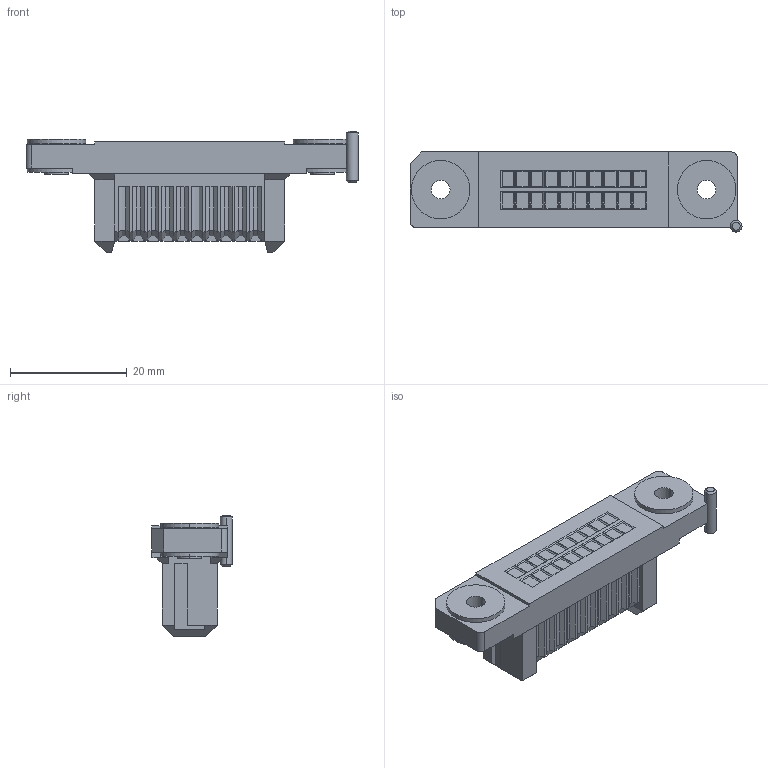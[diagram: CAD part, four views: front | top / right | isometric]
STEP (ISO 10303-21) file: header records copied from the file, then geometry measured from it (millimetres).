
FILE_DESCRIPTION(('CoCreate Modeling STEP Export'),'2;1');
FILE_NAME('P3A947_FA01-020.stp','2017-07-27T14:29:36',(''),(''),'CoCreate Modeling STEP processor for AP214 (Solid Model)','CoCreate Modeling 17.0B 09-Oct-2010 (C) Parametric Technology GmbH','');
FILE_SCHEMA(('AUTOMOTIVE_DESIGN { 1 0 10303 214 1 1 1 1 }'));
Length unit declared in the file: millimetre
Products named in the file (2): FA01-020
Assembly tree (1 placements, depth 2):
  FA01-020
    FA01-020
Bounding box: 56.8 x 13.7 x 20.8 mm (x, y, z)
Volume: 6566 mm3; surface area: 4078.3 mm2
Topology: 1 solids, 1 shells, 451 faces, 1074 edges, 655 vertices
Faces by surface type: plane 419, cylinder 28, cone 4
Entity records: 12442 total; most frequent: ORIENTED_EDGE 2148, CARTESIAN_POINT 2145, DIRECTION 1976, EDGE_CURVE 1074, VECTOR 1004, LINE 1004, VERTEX_POINT 655, AXIS2_PLACEMENT_3D 486
